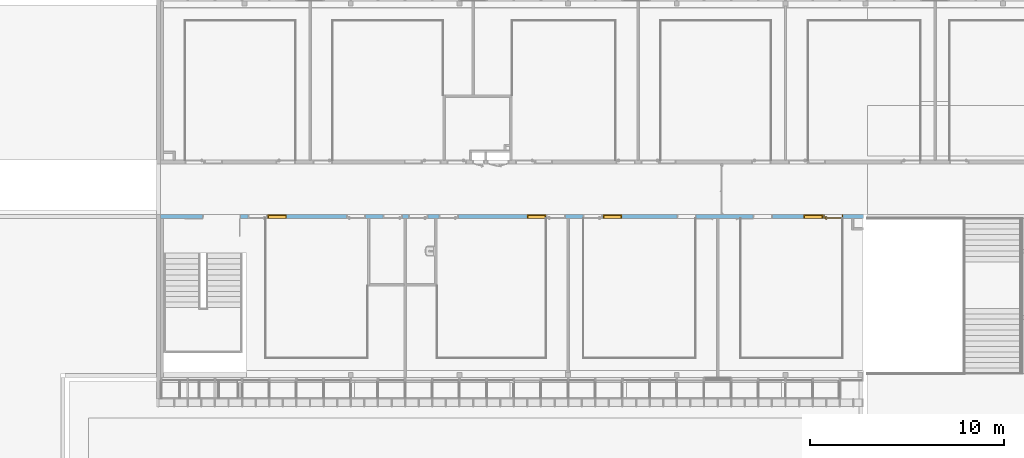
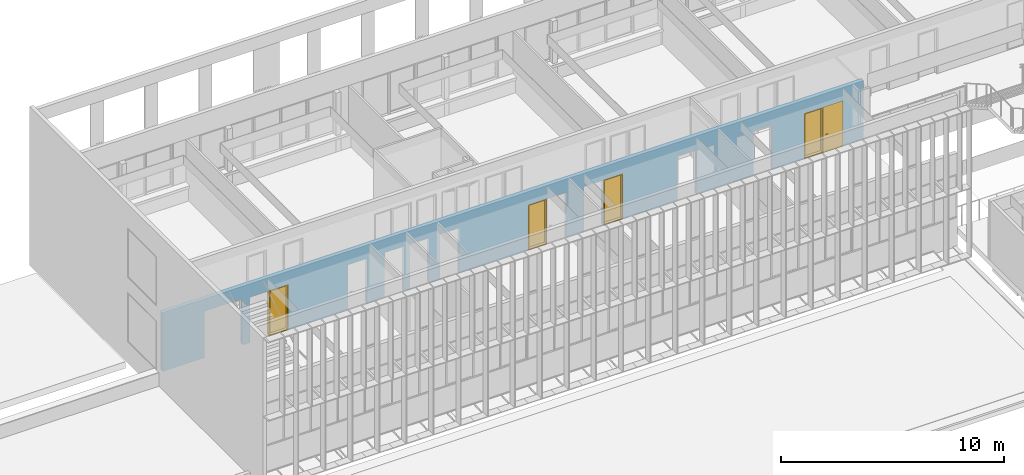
# One storey, part 45 of 106: 4 windows, 1 door, 15 openings, plus 1 element that does not belong to this part.
"""IFC2X3 building model written with IfcOpenShell, lengths in centimetres."""

import ifcopenshell
import ifcopenshell.guid

model = None  # the IFC model being written
_history = None  # IfcOwnerHistory: only IFC2X3 demands one
_inside = {}  # id of a spatial element -> (the spatial element, [elements in it])
_under = {}  # id of a project, library or spatial element -> (it, [spatial elements below it])
_declared = {}  # id of a project -> (the project, [libraries it declares])
_typed = {}  # id of a type object -> (the type object, [elements of that type])
_made_of = {}  # id of a material, layer set ... -> (it, [elements and type objects made of it])


def new_model(schema):
    """Start an empty IFC model of exactly this schema.

    Asked for "IFC4X3", IfcOpenShell would pick the latest addendum, in which some entities
    have other attributes; the version numbers below select the first issue.
    IFC2X3 requires an IfcOwnerHistory on every rooted entity: one is made here for all.
    """
    global model, _history
    if schema == "IFC4X3":
        model = ifcopenshell.file(schema_version=(4, 3, 0, 0))
    else:
        model = ifcopenshell.file(schema=schema)
    _inside.clear()
    _under.clear()
    _declared.clear()
    _typed.clear()
    _made_of.clear()
    _history = None
    if model.schema == "IFC2X3":
        org = make("IfcOrganization", Name="unknown")
        user = make(
            "IfcPersonAndOrganization",
            ThePerson=make("IfcPerson", FamilyName="unknown"),
            TheOrganization=org,
        )
        app = make(
            "IfcApplication",
            ApplicationDeveloper=org,
            Version="unknown",
            ApplicationFullName="unknown",
            ApplicationIdentifier="unknown",
        )
        _history = make(
            "IfcOwnerHistory",
            OwningUser=user,
            OwningApplication=app,
            ChangeAction="ADDED",
            CreationDate=0,
        )
    return model


def make(cls, **values):
    """One entity of the class cls with the attributes given. An attribute that is None is left unset."""
    return model.create_entity(
        cls, **{name: value for name, value in values.items() if value is not None}
    )


def entity(cls, *values):
    """Any entity or typed value of the class cls, its attributes in the order of the schema. None: left unset."""
    e = model.create_entity(cls)
    for i, value in enumerate(values):
        if value is not None:
            e[i] = value
    return e


def rooted(cls, **values):
    """An entity with a GlobalId (a new one), such as an element, a storey or a relation."""
    return make(cls, GlobalId=ifcopenshell.guid.new(), OwnerHistory=_history, **values)


def si_unit(unit_type, name, prefix=None):
    """IfcSIUnit, for example si_unit("LENGTHUNIT", "METRE", prefix="MILLI")."""
    return make("IfcSIUnit", UnitType=unit_type, Prefix=prefix, Name=name)


def converted_unit(unit_type, name, factor, base, dimensions=None, offset=None):
    """IfcConversionBasedUnit, such as the inch: factor (a typed value) times the base unit."""
    return make(
        "IfcConversionBasedUnit"
        if offset is None
        else "IfcConversionBasedUnitWithOffset",
        ConversionOffset=offset,
        Dimensions=None
        if dimensions is None
        else entity("IfcDimensionalExponents", *dimensions),
        UnitType=unit_type,
        Name=name,
        ConversionFactor=make(
            "IfcMeasureWithUnit", ValueComponent=factor, UnitComponent=base
        ),
    )


def derived_unit(unit_type, elements):
    """IfcDerivedUnit: a product of units, each with its exponent."""
    return make(
        "IfcDerivedUnit",
        Elements=[
            make("IfcDerivedUnitElement", Unit=unit, Exponent=power)
            for unit, power in elements
        ],
        UnitType=unit_type,
    )


def assignment(units):
    """IfcUnitAssignment: the units of a project."""
    return None if units is None else make("IfcUnitAssignment", Units=units)


def point(xyz):
    """IfcCartesianPoint."""
    return None if xyz is None else make("IfcCartesianPoint", Coordinates=xyz)


def direction(xyz):
    """IfcDirection."""
    return None if xyz is None else make("IfcDirection", DirectionRatios=xyz)


def frame(location, z_axis=None, x_axis=None):
    """IfcAxis2Placement3D, a coordinate frame: its origin and axes. An axis left out is left unset."""
    return make(
        "IfcAxis2Placement3D",
        Location=point(location),
        Axis=direction(z_axis),
        RefDirection=direction(x_axis),
    )


def frame_2d(location, x_axis=None):
    """IfcAxis2Placement2D, a coordinate frame in the plane: its origin and x axis."""
    return make(
        "IfcAxis2Placement2D", Location=point(location), RefDirection=direction(x_axis)
    )


def origin():
    """The frame at (0, 0, 0) with its axes left unset."""
    return frame((0.0, 0.0, 0.0))


def place(relative_to, where):
    """IfcLocalPlacement: puts the frame where relative to a parent placement (None: the world)."""
    return make(
        "IfcLocalPlacement", PlacementRelTo=relative_to, RelativePlacement=where
    )


def context(
    kind, dimensions, precision=None, world=None, true_north=None, identifier=None
):
    """IfcGeometricRepresentationContext, for example the 3D "Model" context."""
    return make(
        "IfcGeometricRepresentationContext",
        ContextIdentifier=identifier,
        ContextType=kind,
        CoordinateSpaceDimension=dimensions,
        Precision=precision,
        WorldCoordinateSystem=world,
        TrueNorth=true_north,
    )


def subcontext(parent, identifier, kind, view, scale=None):
    """IfcGeometricRepresentationSubContext, for example "Body" below "Model"."""
    return make(
        "IfcGeometricRepresentationSubContext",
        ContextIdentifier=identifier,
        ContextType=kind,
        ParentContext=parent,
        TargetScale=scale,
        TargetView=view,
    )


def project(units=None, contexts=None):
    """IfcProject with its units and contexts."""
    return rooted(
        "IfcProject",
        Name="project",
        RepresentationContexts=contexts,
        UnitsInContext=assignment(units),
    )


def spatial(cls, under=None, at=None, **own):
    """A site, building, storey or space (cls), placed at a placement, below another one or the project."""
    s = rooted(cls, ObjectPlacement=at, **own)
    if under is not None:
        _under.setdefault(under.id(), (under, []))[1].append(s)
    return s


def polyline(points):
    """IfcPolyline through the points."""
    return make("IfcPolyline", Points=[point(p) for p in points])


def profile(cls, at=None, kind="AREA", **sizes):
    """A parametric profile (cls). Its sizes go by their IFC names, for example OverallWidth=200.0."""
    return make(cls, ProfileType=kind, Position=at, **sizes)


def rectangle(**sizes):
    """IfcRectangleProfileDef."""
    return profile("IfcRectangleProfileDef", **sizes)


def extrude(swept, where, along, depth):
    """IfcExtrudedAreaSolid: the profile swept, set in the frame where, extruded along a direction by depth."""
    return make(
        "IfcExtrudedAreaSolid",
        SweptArea=swept,
        Position=where,
        ExtrudedDirection=direction(along),
        Depth=depth,
    )


def clip(a, b, op="DIFFERENCE"):
    """IfcBooleanClippingResult: the solid a cut by the half space b."""
    return make(
        "IfcBooleanClippingResult", Operator=op, FirstOperand=a, SecondOperand=b
    )


def bounded_halfspace(plane, agree, where, boundary):
    """IfcPolygonalBoundedHalfSpace: a half space limited to a polygon's prism."""
    return make(
        "IfcPolygonalBoundedHalfSpace",
        BaseSurface=make("IfcPlane", Position=plane),
        AgreementFlag=agree,
        Position=where,
        PolygonalBoundary=boundary,
    )


def faces_of(points, faces, orient=None, outer=None):
    """IfcFace entities. A face is a list of loops; a loop is a list of indices into points, from 0.

    orient and outer hold one flag for each loop. By default every Orientation is true, the
    first loop of a face is its IfcFaceOuterBound and the others are IfcFaceBound.
    """
    made = []
    for i, loops in enumerate(faces):
        bounds = []
        for j, loop in enumerate(loops):
            is_outer = j == 0 if outer is None else outer[i][j]
            bounds.append(
                make(
                    "IfcFaceOuterBound" if is_outer else "IfcFaceBound",
                    Bound=make("IfcPolyLoop", Polygon=[points[k] for k in loop]),
                    Orientation=True if orient is None else orient[i][j],
                )
            )
        made.append(make("IfcFace", Bounds=bounds))
    return made


def faceted_brep(points, faces, orient=None, outer=None, voids=None):
    """IfcFacetedBrep: a solid bounded by flat faces; with voids (closed shells), ...WithVoids."""
    shared = [point(p) for p in points]
    hull = make("IfcClosedShell", CfsFaces=faces_of(shared, faces, orient, outer))
    if voids is None:
        return make("IfcFacetedBrep", Outer=hull)
    return make(
        "IfcFacetedBrepWithVoids",
        Outer=hull,
        Voids=[
            make(cls, CfsFaces=faces_of(shared, fs, o, b)) for cls, fs, o, b in voids
        ],
    )


def shape(context_of_items, identifier, shape_type, items):
    """IfcShapeRepresentation: the items that make up one representation, for example the "Body"."""
    return make(
        "IfcShapeRepresentation",
        ContextOfItems=context_of_items,
        RepresentationIdentifier=identifier,
        RepresentationType=shape_type,
        Items=items,
    )


def source(mapping_origin, context_of_items, identifier, shape_type, items):
    """IfcRepresentationMap: a shape defined once, which mapped items show again and again."""
    return make(
        "IfcRepresentationMap",
        MappingOrigin=mapping_origin,
        MappedRepresentation=shape(context_of_items, identifier, shape_type, items),
    )


def transform(
    local_origin,
    x_axis=None,
    y_axis=None,
    z_axis=None,
    scale=None,
    scale2=None,
    scale3=None,
    uniform=True,
):
    """IfcCartesianTransformationOperator3D, or its non-uniform kind. x_axis, y_axis, z_axis: its Axis1, 2, 3."""
    if uniform:
        return make(
            "IfcCartesianTransformationOperator3D",
            Axis1=direction(x_axis),
            Axis2=direction(y_axis),
            LocalOrigin=point(local_origin),
            Scale=scale,
            Axis3=direction(z_axis),
        )
    return make(
        "IfcCartesianTransformationOperator3DnonUniform",
        Axis1=direction(x_axis),
        Axis2=direction(y_axis),
        LocalOrigin=point(local_origin),
        Scale=scale,
        Axis3=direction(z_axis),
        Scale2=scale2,
        Scale3=scale3,
    )


def mapped(mapping_source, mapping_target):
    """IfcMappedItem: shows the shape of a source again, moved by a transform."""
    return make(
        "IfcMappedItem", MappingSource=mapping_source, MappingTarget=mapping_target
    )


def material(Name=None, Category=None):
    """IfcMaterial."""
    return make("IfcMaterial", Name=Name, Category=Category)


def material_list(materials):
    """IfcMaterialList."""
    return make("IfcMaterialList", Materials=materials)


def layer(
    of_material, thickness, ventilated=None, Name=None, Category=None, Priority=None
):
    """IfcMaterialLayer: one layer of a wall or slab, of a material (None: an air gap)."""
    return make(
        "IfcMaterialLayer",
        Material=of_material,
        LayerThickness=thickness,
        IsVentilated=ventilated,
        Name=Name,
        Category=Category,
        Priority=Priority,
    )


def layer_set(layers, Name=None):
    """IfcMaterialLayerSet."""
    return make("IfcMaterialLayerSet", MaterialLayers=layers, LayerSetName=Name)


def layer_usage(for_layer_set, set_direction, sense, offset, extent=None):
    """IfcMaterialLayerSetUsage: how a layer set lies in its element."""
    return make(
        "IfcMaterialLayerSetUsage",
        ForLayerSet=for_layer_set,
        LayerSetDirection=set_direction,
        DirectionSense=sense,
        OffsetFromReferenceLine=offset,
        ReferenceExtent=extent,
    )


def made_of(thing, what):
    """Note that an element or type object is made of a material, layer set ...; save() writes the relation."""
    if what is not None:
        _made_of.setdefault(what.id(), (what, []))[1].append(thing)
    return thing


def type_object(cls, material=None, **own):
    """A type object (cls), such as IfcWallType, which elements share."""
    return made_of(rooted(cls, **own), material)


def type_shapes(of_type, sources):
    """Give a type object the sources (RepresentationMaps) that its elements show as mapped items."""
    of_type.RepresentationMaps = sources


def element(
    cls,
    number,
    at=None,
    inside=None,
    cuts=None,
    type_object=None,
    material=None,
    context=None,
    identifier="Body",
    shape_type=None,
    held_by="IfcProductDefinitionShape",
    body=None,
    shapes=None,
    **own,
):
    """One element of the class cls, such as IfcWall. Its Tag is "e" and its number.

    at: its placement. inside: the storey or other place that contains it. cuts: it is an
    opening in that element (IfcRelVoidsElement). A single representation is given by context,
    identifier, shape_type and body (its items); several are given by shapes. held_by: the class
    of the entity that holds the representations. save() writes the other relations.
    """
    e = rooted(cls, Tag="e%d" % number, ObjectPlacement=at, **own)
    if body is not None:
        shapes = [shape(context, identifier, shape_type, body)]
    if shapes is not None:
        e.Representation = make(held_by, Representations=shapes)
    if inside is not None:
        _inside.setdefault(inside.id(), (inside, []))[1].append(e)
    if cuts is not None:
        rooted(
            "IfcRelVoidsElement", RelatingBuildingElement=cuts, RelatedOpeningElement=e
        )
    if type_object is not None:
        _typed.setdefault(type_object.id(), (type_object, []))[1].append(e)
    return made_of(e, material)


def fill(opening, filler):
    """IfcRelFillsElement: the door or window that sits in an opening."""
    return rooted(
        "IfcRelFillsElement",
        RelatingOpeningElement=opening,
        RelatedBuildingElement=filler,
    )


def aggregate(whole, parts):
    """IfcRelAggregates: a whole, such as a stair, and the parts it consists of."""
    return rooted("IfcRelAggregates", RelatingObject=whole, RelatedObjects=parts)


def save(model, path):
    """Write the relations noted so far, then the file.

    IfcRelAggregates (storeys below a building ...), IfcRelContainedInSpatialStructure (elements
    in a storey), IfcRelDefinesByType, IfcRelAssociatesMaterial and IfcRelDeclares: one each for
    every whole, place, type object, material and project.
    """
    for whole, parts in _under.values():
        aggregate(whole, parts)
    for where, things in _inside.values():
        rooted(
            "IfcRelContainedInSpatialStructure",
            RelatedElements=things,
            RelatingStructure=where,
        )
    for kind, things in _typed.values():
        rooted("IfcRelDefinesByType", RelatedObjects=things, RelatingType=kind)
    for what, things in _made_of.values():
        rooted("IfcRelAssociatesMaterial", RelatedObjects=things, RelatingMaterial=what)
    for by, libraries in _declared.values():
        rooted("IfcRelDeclares", RelatingContext=by, RelatedDefinitions=libraries)
    model.write(path)


model = new_model("IFC2X3")

# Units and contexts
model_context = context("Model", 3, precision=0.001, world=origin(), true_north=direction((6.12303176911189e-17, 1.0)))
body_context = subcontext(model_context, "Body", "Model", "MODEL_VIEW")
ifc_project = project(units=[si_unit("LENGTHUNIT", "METRE", prefix="CENTI"), si_unit("AREAUNIT", "SQUARE_METRE"), si_unit("VOLUMEUNIT", "CUBIC_METRE"), converted_unit("PLANEANGLEUNIT", "DEGREE", entity("IfcRatioMeasure", 0.0174532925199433), si_unit("PLANEANGLEUNIT", "RADIAN"), dimensions=[0, 0, 0, 0, 0, 0, 0]), si_unit("MASSUNIT", "GRAM", prefix="KILO"), derived_unit("MASSDENSITYUNIT", [(si_unit("MASSUNIT", "GRAM", prefix="KILO"), 1), (si_unit("LENGTHUNIT", "METRE"), -3)]), si_unit("TIMEUNIT", "SECOND"), si_unit("FREQUENCYUNIT", "HERTZ"), si_unit("THERMODYNAMICTEMPERATUREUNIT", "DEGREE_CELSIUS"), derived_unit("THERMALTRANSMITTANCEUNIT", [(si_unit("MASSUNIT", "GRAM", prefix="KILO"), 1), (si_unit("THERMODYNAMICTEMPERATUREUNIT", "KELVIN"), -1), (si_unit("TIMEUNIT", "SECOND"), -3)]), derived_unit("VOLUMETRICFLOWRATEUNIT", [(si_unit("LENGTHUNIT", "METRE"), 3), (si_unit("TIMEUNIT", "SECOND"), -1)]), si_unit("ELECTRICCURRENTUNIT", "AMPERE"), si_unit("ELECTRICVOLTAGEUNIT", "VOLT"), si_unit("POWERUNIT", "WATT"), si_unit("FORCEUNIT", "NEWTON", prefix="KILO"), si_unit("ILLUMINANCEUNIT", "LUX"), si_unit("LUMINOUSFLUXUNIT", "LUMEN"), si_unit("LUMINOUSINTENSITYUNIT", "CANDELA"), derived_unit("USERDEFINED", [(si_unit("MASSUNIT", "GRAM", prefix="KILO"), -1), (si_unit("LENGTHUNIT", "METRE"), -2), (si_unit("TIMEUNIT", "SECOND"), 3), (si_unit("LUMINOUSFLUXUNIT", "LUMEN"), 1)]), derived_unit("LINEARVELOCITYUNIT", [(si_unit("LENGTHUNIT", "METRE"), 1), (si_unit("TIMEUNIT", "SECOND"), -1)]), si_unit("PRESSUREUNIT", "PASCAL"), derived_unit("USERDEFINED", [(si_unit("LENGTHUNIT", "METRE"), -2), (si_unit("MASSUNIT", "GRAM", prefix="KILO"), 1), (si_unit("TIMEUNIT", "SECOND"), -2)])], contexts=[model_context])

# Site, building, storey
site_placement = place(None, frame((-2781.94577612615, 7442.24238424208, 0.0)))
site = spatial("IfcSite", under=ifc_project, at=site_placement, Name="Default", CompositionType="ELEMENT")
building_placement = place(site_placement, origin())
building = spatial("IfcBuilding", under=site, at=building_placement, CompositionType="ELEMENT")
storey_placement = place(building_placement, frame((0.0, 0.0, 422.0)))
storey = spatial("IfcBuildingStorey", under=building, at=storey_placement, Name="Toiture - Cuisine", CompositionType="ELEMENT", Elevation=421.999999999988)

# Wall, openings, door, windows
ifc_material_1 = material(Name="01 - Maçonnerie")
ifc_layer = layer(ifc_material_1, 20.0)
ifc_layer_set = layer_set([ifc_layer], Name="Mur de base:04 - Structure - béton - 20cm")
ifc_layer_usage = layer_usage(ifc_layer_set, "AXIS2", "NEGATIVE", 10.0)
wall_type = type_object("IfcWallType", Name="Mur de base:04 - Structure - béton - 20cm", PredefinedType="STANDARD", material=ifc_layer_set)
wall_placement = place(building_placement, frame((-4787.99987760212, -1100.0, 422.0), z_axis=(0.0, 0.0, 1.0), x_axis=(-1.0, 0.0, 0.0)))
wall = element("IfcWallStandardCase", 1, at=wall_placement, inside=storey, type_object=wall_type, material=ifc_layer_usage, Name="Mur de base:04 - Structure - béton - 20cm", ObjectType="Mur de base:04 - Structure - béton - 20cm", context=body_context, shape_type="Clipping", body=[
    clip(extrude(rectangle(XDim=3621.50000006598, YDim=20.0000000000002, at=frame_2d((1810.75000003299, 5.32907051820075e-14), x_axis=(-1.0, 0.0))), origin(), (0.0, 0.0, 1.0), 321.0), bounded_halfspace(frame((4.0, -10.0, 321.0), z_axis=(0.0, 0.0, -1.0), x_axis=(0.0, -1.0, 0.0)), True, frame((4.0, -10.0, 321.0)), polyline([(0.0, 0.0), (720.0, 0.0), (730.0, 0.0), (3617.50000006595, 0.0), (3617.50000006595, 20.0), (3602.20000006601, 20.0), (3077.50016406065, 20.0), (3075.50016406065, 20.0), (2550.5, 20.0), (2540.5, 20.0), (2362.50000003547, 20.0), (2352.50000003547, 20.0), (2203.5, 20.0), (2193.5, 20.0), (1632.5, 20.0), (1630.5, 20.0), (1522.50016406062, 20.0), (1512.50016406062, 20.0), (1440.5, 20.0), (1438.5, 20.0), (862.500000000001, 20.0), (860.5, 20.0), (750.500000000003, 20.0), (740.500000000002, 20.0), (630.500000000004, 20.0), (628.500000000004, 20.0), (104.500000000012, 20.0), (102.500000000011, 20.0), (56.0, 20.0), (46.0, 20.0), (0.0, 20.0), (0.0, 0.0)]))),
])
opening_1_placement = place(wall_placement, frame((3071.50016406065, -10.0, 0.0)))
element("IfcOpeningElement", 2, at=opening_1_placement, cuts=wall, Name="Int. Simple:PV (0.93m x 2.50m):1", ObjectType="Opening", context=body_context, shape_type="SweptSolid", body=[
    extrude(rectangle(XDim=248.500000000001, YDim=99.9999999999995, at=frame_2d((124.250000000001, 49.9999999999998), x_axis=(1.0, 0.0))), frame((0.0, 0.0, 0.0), z_axis=(0.0, 1.0, 0.0), x_axis=(0.0, 0.0, 1.0)), (0.0, 0.0, 1.0), 20.0),
])
opening_2_placement = place(wall_placement, frame((1534.5, -10.0, 0.0)))
element("IfcOpeningElement", 3, at=opening_2_placement, cuts=wall, Name="Int. Simple:PV (0.93m x 2.50m):1", ObjectType="Opening", context=body_context, shape_type="SweptSolid", body=[
    extrude(rectangle(XDim=248.500000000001, YDim=99.9999999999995, at=frame_2d((124.250000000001, 50.0), x_axis=(1.0, 0.0))), frame((0.0, 0.0, 0.0), z_axis=(0.0, 1.0, 0.0), x_axis=(0.0, 0.0, 1.0)), (0.0, 0.0, 1.0), 20.0),
])
opening_3_placement = place(wall_placement, frame((861.500000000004, -10.0, 0.0)))
element("IfcOpeningElement", 4, at=opening_3_placement, cuts=wall, Name="Int. Simple:PV (0.93m x 2.50m):1", ObjectType="Opening", context=body_context, shape_type="SweptSolid", body=[
    extrude(rectangle(XDim=248.500000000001, YDim=99.9999999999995, at=frame_2d((124.250000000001, 50.0), x_axis=(1.0, 0.0))), frame((0.0, 0.0, 0.0), z_axis=(0.0, 1.0, 0.0), x_axis=(0.0, 0.0, 1.0)), (0.0, 0.0, 1.0), 20.0),
])
opening_4_placement = place(wall_placement, frame((469.500000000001, -10.0, 0.0)))
element("IfcOpeningElement", 5, at=opening_4_placement, cuts=wall, Name="Int. Simple:PV (0.93m x 2.50m):1", ObjectType="Opening", context=body_context, shape_type="SweptSolid", body=[
    extrude(rectangle(XDim=248.500000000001, YDim=99.9999999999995, at=frame_2d((124.250000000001, 49.9999999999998), x_axis=(1.0, 0.0))), frame((0.0, 0.0, 0.0), z_axis=(0.0, 1.0, 0.0), x_axis=(0.0, 0.0, 1.0)), (0.0, 0.0, 1.0), 20.0),
])
opening_5_placement = place(wall_placement, frame((2971.50016406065, -10.0, 0.0)))
opening_5 = element("IfcOpeningElement", 6, at=opening_5_placement, cuts=wall, Name="châssis intérieur vitré:châssis intérieur vitré (h=270) R+1:1", ObjectType="Opening", context=body_context, shape_type="SweptSolid", body=[
    extrude(rectangle(XDim=250.0, YDim=99.9999999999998, at=frame_2d((125.0, 49.9999999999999), x_axis=(1.0, 0.0))), frame((0.0, 0.0, 0.0), z_axis=(0.0, 1.0, 0.0), x_axis=(0.0, 0.0, 1.0)), (0.0, 0.0, 1.0), 20.0),
])
opening_6_placement = place(wall_placement, frame((1634.50000000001, -10.0, 0.0)))
opening_6 = element("IfcOpeningElement", 7, at=opening_6_placement, cuts=wall, Name="châssis intérieur vitré:châssis intérieur vitré (h=270) R+1:1", ObjectType="Opening", context=body_context, shape_type="SweptSolid", body=[
    extrude(rectangle(XDim=250.0, YDim=99.9999999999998, at=frame_2d((125.0, 49.9999999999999), x_axis=(1.0, 0.0))), frame((0.0, 0.0, 0.0), z_axis=(0.0, 1.0, 0.0), x_axis=(0.0, 0.0, 1.0)), (0.0, 0.0, 1.0), 20.0),
])
opening_7_placement = place(wall_placement, frame((1243.0, -10.0, 0.0)))
opening_7 = element("IfcOpeningElement", 8, at=opening_7_placement, cuts=wall, Name="châssis intérieur vitré:châssis intérieur vitré (h=270) R+1:1", ObjectType="Opening", context=body_context, shape_type="SweptSolid", body=[
    extrude(rectangle(XDim=250.0, YDim=99.9999999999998, at=frame_2d((125.0, 49.9999999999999), x_axis=(1.0, 0.0))), frame((0.0, 0.0, 0.0), z_axis=(0.0, 1.0, 0.0), x_axis=(0.0, 0.0, 1.0)), (0.0, 0.0, 1.0), 20.0),
])
opening_8_placement = place(wall_placement, frame((208.0, -10.0, 0.0)))
opening_8 = element("IfcOpeningElement", 9, at=opening_8_placement, cuts=wall, Name="châssis intérieur vitré:châssis intérieur vitré (h=270) R+1:1", ObjectType="Opening", context=body_context, shape_type="SweptSolid", body=[
    extrude(rectangle(XDim=250.0, YDim=99.9999999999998, at=frame_2d((125.0, 49.9999999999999), x_axis=(1.0, 0.0))), frame((0.0, 0.0, 0.0), z_axis=(0.0, 1.0, 0.0), x_axis=(0.0, 0.0, 1.0)), (0.0, 0.0, 1.0), 20.0),
])
opening_9_placement = place(wall_placement, frame((2564.5, -10.0, 0.0)))
element("IfcOpeningElement", 10, at=opening_9_placement, cuts=wall, Name="Int. Simple:PV (0.93m x 2.50m):1", ObjectType="Opening", context=body_context, shape_type="SweptSolid", body=[
    extrude(rectangle(XDim=248.500000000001, YDim=99.9999999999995, at=frame_2d((124.250000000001, 50.0), x_axis=(1.0, 0.0))), frame((0.0, 0.0, 0.0), z_axis=(0.0, 1.0, 0.0), x_axis=(0.0, 0.0, 1.0)), (0.0, 0.0, 1.0), 20.0),
])
opening_10_placement = place(wall_placement, frame((2374.5, -10.0, 0.0)))
element("IfcOpeningElement", 11, at=opening_10_placement, cuts=wall, Name="Int. Simple:PP simple (0.93m x 2.50m):1", ObjectType="Opening", context=body_context, shape_type="SweptSolid", body=[
    extrude(rectangle(XDim=248.500000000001, YDim=99.9999999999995, at=frame_2d((124.250000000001, 49.9999999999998), x_axis=(1.0, 0.0))), frame((0.0, 0.0, 0.0), z_axis=(0.0, 1.0, 0.0), x_axis=(0.0, 0.0, 1.0)), (0.0, 0.0, 1.0), 20.0),
])
opening_11_placement = place(wall_placement, frame((2244.5, -10.0, 0.0)))
element("IfcOpeningElement", 12, at=opening_11_placement, cuts=wall, Name="Int. Simple:PP simple (0.93m x 2.50m):1", ObjectType="Opening", context=body_context, shape_type="SweptSolid", body=[
    extrude(rectangle(XDim=248.500000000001, YDim=99.9999999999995, at=frame_2d((124.250000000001, 49.9999999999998), x_axis=(1.0, 0.0))), frame((0.0, 0.0, 0.0), z_axis=(0.0, 1.0, 0.0), x_axis=(0.0, 0.0, 1.0)), (0.0, 0.0, 1.0), 20.0),
])
opening_12_placement = place(wall_placement, frame((2087.5, -10.0, 0.0)))
element("IfcOpeningElement", 13, at=opening_12_placement, cuts=wall, Name="Int. Simple:PV (0.93m x 2.50m):1", ObjectType="Opening", context=body_context, shape_type="SweptSolid", body=[
    extrude(rectangle(XDim=248.500000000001, YDim=99.9999999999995, at=frame_2d((124.250000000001, 49.9999999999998), x_axis=(1.0, 0.0))), frame((0.0, 0.0, 0.0), z_axis=(0.0, 1.0, 0.0), x_axis=(0.0, 0.0, 1.0)), (0.0, 0.0, 1.0), 20.0),
])
opening_13_placement = place(wall_placement, frame((1344.5, -10.0, 0.0)))
element("IfcOpeningElement", 14, at=opening_13_placement, cuts=wall, Name="Int. Simple:PV (0.93m x 2.50m):1", ObjectType="Opening", context=body_context, shape_type="SweptSolid", body=[
    extrude(rectangle(XDim=248.500000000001, YDim=99.9999999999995, at=frame_2d((124.250000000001, 49.9999999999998), x_axis=(1.0, 0.0))), frame((0.0, 0.0, 0.0), z_axis=(0.0, 1.0, 0.0), x_axis=(0.0, 0.0, 1.0)), (0.0, 0.0, 1.0), 20.0),
])
opening_14_placement = place(wall_placement, frame((106.500000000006, -10.0, 0.0)))
opening_14 = element("IfcOpeningElement", 15, at=opening_14_placement, cuts=wall, Name="Int. Simple:PV (0.93m x 2.50m):1", ObjectType="Opening", context=body_context, shape_type="SweptSolid", body=[
    extrude(rectangle(XDim=248.500000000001, YDim=99.9999999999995, at=frame_2d((124.250000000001, 50.0), x_axis=(1.0, 0.0))), frame((0.0, 0.0, 0.0), z_axis=(0.0, 1.0, 0.0), x_axis=(0.0, 0.0, 1.0)), (0.0, 0.0, 1.0), 20.0),
])
opening_15_placement = place(wall_placement, frame((3208.50000000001, -10.0, 0.0)))
element("IfcOpeningElement", 16, at=opening_15_placement, cuts=wall, Name="Int. Double:PP (1.90m x 2.50m):1", ObjectType="Opening", context=body_context, shape_type="SweptSolid", body=[
    extrude(rectangle(XDim=253.500000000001, YDim=197.0, at=frame_2d((126.750000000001, 98.5), x_axis=(1.0, 0.0))), frame((0.0, 0.0, 0.0), z_axis=(0.0, 1.0, 0.0), x_axis=(0.0, 0.0, 1.0)), (0.0, 0.0, 1.0), 20.0),
])
ifc_material_2 = material(Name="Finition Peinture - Blanc satiné")
ifc_material_3 = material(Name="Bois - Panneau de porte")
ifc_material_4 = material(Name="Bois - Cadre de porte")
ifc_material_list_1 = material_list([ifc_material_2, ifc_material_3, ifc_material_4])
ifc_material_list_2 = material_list([ifc_material_2, ifc_material_3, ifc_material_4])
door_style = type_object("IfcDoorStyle", Name="PV (0.93m x 2.50m)", ConstructionType="NOTDEFINED", OperationType="SINGLE_SWING_LEFT", ParameterTakesPrecedence=False, Sizeable=False, material=ifc_material_list_2)
shared_shape_1 = source(origin(), body_context, "Body", "Brep", [
    faceted_brep([(10.5352761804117, -0.500000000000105, 86.6003983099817), (11.5000000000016, -0.500000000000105, 87.0), (11.5000000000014, -0.500000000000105, 108.0), (10.5352761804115, -0.500000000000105, 108.399601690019), (9.50000000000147, -0.500000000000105, 108.535898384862), (8.46472381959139, -0.500000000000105, 108.399601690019), (7.50000000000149, -0.500000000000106, 108.0), (7.50000000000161, -0.500000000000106, 87.0), (8.46472381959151, -0.500000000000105, 86.6003983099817), (9.50000000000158, -0.500000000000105, 86.464101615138), (10.5352761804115, 0.0, 108.399601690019), (11.5000000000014, 0.0, 108.0), (11.5000000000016, 0.0, 87.0), (10.5352761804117, 0.0, 86.6003983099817), (9.50000000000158, 0.0, 86.464101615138), (8.46472381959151, 0.0, 86.6003983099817), (7.50000000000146, 0.0, 87.0), (7.50000000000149, 0.0, 108.0), (8.46472381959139, 0.0, 108.399601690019), (9.50000000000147, 0.0, 108.535898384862)], [[[0, 1, 2, 3, 4, 5, 6, 7, 8, 9]], [[10, 11, 12, 13, 14, 15, 16, 17, 18, 19]], [[16, 15, 8, 7]], [[8, 15, 14, 9]], [[14, 13, 0, 9]], [[13, 12, 1, 0]], [[2, 1, 12, 11]], [[11, 10, 3, 2]], [[3, 10, 19, 4]], [[19, 18, 5, 4]], [[18, 17, 6, 5]], [[7, 6, 17, 16]]]),
    faceted_brep([(10.5352761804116, 4.0, 86.6003983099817), (11.5000000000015, 4.0, 87.0), (11.5000000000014, 4.0, 108.0), (10.5352761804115, 4.0, 108.399601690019), (9.50000000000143, 4.0, 108.535898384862), (8.46472381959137, 4.0, 108.399601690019), (7.50000000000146, 4.0, 108.0), (7.50000000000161, 4.0, 87.0), (8.46472381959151, 4.0, 86.6003983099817), (9.50000000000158, 4.0, 86.464101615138), (10.5352761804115, 4.49999999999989, 108.399601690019), (11.5000000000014, 4.49999999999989, 108.0), (11.5000000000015, 4.49999999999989, 87.0), (10.5352761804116, 4.49999999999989, 86.6003983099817), (9.50000000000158, 4.49999999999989, 86.464101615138), (8.46472381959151, 4.49999999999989, 86.6003983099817), (7.50000000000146, 4.49999999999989, 87.0), (7.50000000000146, 4.49999999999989, 108.0), (8.46472381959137, 4.49999999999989, 108.399601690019), (9.50000000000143, 4.49999999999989, 108.535898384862)], [[[0, 1, 2, 3, 4, 5, 6, 7, 8, 9]], [[10, 11, 12, 13, 14, 15, 16, 17, 18, 19]], [[11, 10, 3, 2]], [[3, 10, 19, 4]], [[19, 18, 5, 4]], [[18, 17, 6, 5]], [[7, 6, 17, 16]], [[16, 15, 8, 7]], [[8, 15, 14, 9]], [[14, 13, 0, 9]], [[13, 12, 1, 0]], [[2, 1, 12, 11]]]),
    faceted_brep([(9.29747013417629, -0.500000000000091, 100.778044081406), (9.70252986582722, -0.500000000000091, 100.778044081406), (10.1000000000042, -0.500000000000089, 100.699999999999), (10.1000000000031, -0.500000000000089, 99.3000000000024), (9.7025298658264, -0.500000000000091, 99.2219559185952), (9.29747013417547, -0.500000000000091, 99.221955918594), (8.8999999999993, -0.500000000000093, 99.2999999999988), (8.89999999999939, -0.500000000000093, 100.7), (8.89999999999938, -3.26509507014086, 100.7), (9.29747013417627, -3.10045754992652, 100.778044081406), (10.9023585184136, -4.70534593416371, 100.778044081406), (11.0701397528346, -4.30028620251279, 100.778044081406), (9.7025298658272, -2.93267631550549, 100.778044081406), (10.1000000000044, -2.76803879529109, 100.7), (10.1000000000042, -2.76803879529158, 99.3000000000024), (9.7025298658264, -2.93267631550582, 99.2219559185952), (11.0701397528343, -4.30028620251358, 99.2219559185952), (10.9023585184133, -4.70534593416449, 99.221955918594), (9.29747013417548, -3.10045754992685, 99.221955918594), (8.89999999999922, -3.26509507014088, 99.2999999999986), (10.7377209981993, -5.10281606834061, 100.7), (11.2347772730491, -3.90281606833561, 100.7), (11.2347772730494, -3.90281606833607, 99.3000000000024), (10.7377209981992, -5.10281606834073, 99.2999999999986), (19.5018640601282, -5.1028160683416, 99.2999999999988), (19.5018640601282, -4.70534593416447, 99.221955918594), (19.5018640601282, -4.30028620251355, 99.2219559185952), (19.5018640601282, -3.90281606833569, 99.3000000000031), (19.5018640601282, -3.90281606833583, 100.7), (19.5018640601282, -4.30028620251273, 100.778044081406), (19.5018640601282, -4.70534593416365, 100.778044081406), (19.5018640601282, -5.10281606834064, 100.699999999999), (14.7307697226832, -5.10281606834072, 100.7), (15.2860019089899, -4.5028160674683, 100.78786867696), (15.3683206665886, -3.9028160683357, 100.7), (15.3683206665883, -3.90281606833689, 99.3000000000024), (15.2860018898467, -4.50281607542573, 99.2121313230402), (14.7307700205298, -5.10281606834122, 99.2999999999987)], [[[0, 1, 2, 3, 4, 5, 6, 7]], [[8, 9, 0, 7]], [[9, 10, 11, 12, 1, 0]], [[12, 13, 2, 1]], [[3, 2, 13, 14]], [[14, 15, 4, 3]], [[15, 16, 17, 18, 5, 4]], [[18, 19, 6, 5]], [[7, 6, 19, 8]], [[20, 10, 9, 8]], [[11, 21, 13, 12]], [[14, 13, 21, 22]], [[22, 16, 15, 14]], [[17, 23, 19, 18]], [[8, 19, 23, 20]], [[24, 25, 26, 27, 28, 29, 30, 31]], [[32, 30, 33]], [[31, 30, 32]], [[10, 20, 32]], [[33, 34, 11]], [[21, 11, 34]], [[34, 29, 28]], [[30, 29, 33]], [[29, 34, 33]], [[10, 32, 33]], [[10, 33, 11]], [[22, 21, 34, 28, 27, 35]], [[35, 26, 36]], [[37, 36, 25]], [[22, 35, 16]], [[35, 27, 26]], [[24, 37, 25]], [[23, 17, 37]], [[37, 17, 36]], [[17, 16, 36]], [[16, 35, 36]], [[25, 36, 26]], [[20, 23, 37, 24, 31, 32]]]),
    faceted_brep([(9.29747013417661, 4.49999999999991, 100.778044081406), (8.89999999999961, 4.4999999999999, 100.7), (8.89999999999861, 4.4999999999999, 99.2999999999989), (9.29747013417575, 4.49999999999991, 99.221955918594), (9.70252986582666, 4.49999999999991, 99.2219559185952), (10.1000000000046, 4.49999999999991, 99.3000000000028), (10.1000000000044, 4.49999999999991, 100.7), (9.70252986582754, 4.49999999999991, 100.778044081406), (10.1000000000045, 6.7485204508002, 99.3000000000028), (10.1000000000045, 6.74852045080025, 100.7), (9.70252986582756, 6.91315797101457, 100.778044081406), (11.083890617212, 8.29451872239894, 100.778044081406), (10.916109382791, 8.69957845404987, 100.778044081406), (9.29747013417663, 7.0809392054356, 100.778044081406), (8.89999999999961, 7.24557672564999, 100.7), (8.89999999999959, 7.2455767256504, 99.2999999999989), (9.29747013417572, 7.08093920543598, 99.221955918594), (10.9161093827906, 8.69957845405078, 99.221955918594), (11.0838906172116, 8.29451872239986, 99.2219559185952), (9.70252986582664, 6.91315797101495, 99.2219559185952), (11.2485281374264, 7.89704858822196, 99.3000000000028), (11.2485281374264, 7.89704858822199, 100.7), (10.7514718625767, 9.09704858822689, 100.7), (10.7514718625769, 9.0970485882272, 99.2999999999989), (19.5045783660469, 7.89704858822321, 99.3000000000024), (19.5045783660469, 8.29451872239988, 99.2219559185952), (19.5045783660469, 8.6995784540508, 99.221955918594), (19.5045783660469, 9.09704858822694, 99.2999999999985), (19.5045783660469, 9.09704858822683, 100.7), (19.5045783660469, 8.69957845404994, 100.778044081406), (19.5045783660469, 8.29451872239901, 100.778044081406), (19.5045783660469, 7.89704858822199, 100.7), (15.3765520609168, 7.89704858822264, 99.3000000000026), (15.3765532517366, 7.89704858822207, 100.7), (15.294234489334, 8.49704858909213, 100.78786867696), (14.7445205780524, 9.09704858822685, 100.7), (14.7445204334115, 9.09704858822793, 99.2999999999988), (15.2942345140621, 8.49704858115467, 99.2121313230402)], [[[0, 1, 2, 3, 4, 5, 6, 7]], [[6, 5, 8, 9]], [[9, 10, 7, 6]], [[10, 11, 12, 13, 0, 7]], [[13, 14, 1, 0]], [[2, 1, 14, 15]], [[15, 16, 3, 2]], [[16, 17, 18, 19, 4, 3]], [[19, 8, 5, 4]], [[9, 8, 20, 21]], [[21, 11, 10, 9]], [[12, 22, 14, 13]], [[15, 14, 22, 23]], [[23, 17, 16, 15]], [[18, 20, 8, 19]], [[24, 25, 26, 27, 28, 29, 30, 31]], [[21, 20, 32, 24, 31, 33]], [[33, 30, 34]], [[35, 34, 29]], [[21, 33, 11]], [[33, 31, 30]], [[28, 35, 29]], [[22, 12, 35]], [[35, 12, 34]], [[12, 11, 34]], [[11, 33, 34]], [[29, 34, 30]], [[22, 35, 28, 27, 36, 23]], [[36, 26, 37]], [[27, 26, 36]], [[17, 23, 36]], [[37, 32, 18]], [[20, 18, 32]], [[32, 25, 24]], [[26, 25, 37]], [[25, 32, 37]], [[17, 36, 37]], [[17, 37, 18]]]),
    faceted_brep([(3.50000000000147, 4.0, 245.0), (96.5000000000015, 4.0, 245.0), (96.5000000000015, 4.0, 0.0), (3.50000000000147, 4.0, 0.0), (3.50000000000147, 0.0, 245.0), (3.50000000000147, 0.0, 0.0), (96.5000000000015, 0.0, 0.0), (96.5000000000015, 0.0, 245.0)], [[[0, 1, 2, 3]], [[4, 5, 6, 7]], [[1, 0, 4, 7]], [[2, 1, 7, 6]], [[3, 2, 6, 5]], [[0, 3, 5, 4]]]),
    faceted_brep([(0.0, 20.0, 0.0), (-1.50000000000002, 20.0, 0.0), (-1.50000000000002, 20.5000000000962, 0.0), (5.0, 20.5000000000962, 0.0), (5.0, 4.0, 0.0), (3.50000000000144, 4.0, 0.0), (3.50000000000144, -0.500000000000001, 0.0), (-1.50000000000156, -0.500000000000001, 0.0), (-1.50000000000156, 0.0, 0.0), (0.0, 0.0, 0.0), (0.0, 20.0, 248.500000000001), (100.0, 20.0, 248.500000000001), (100.0, 20.0, 0.0), (101.5, 20.0, 0.0), (101.5, 20.0, 250.0), (-1.50000000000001, 20.0, 250.0), (-1.50000000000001, 20.5000000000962, 250.0), (101.5, 20.5000000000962, 250.0), (101.5, 20.5000000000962, 0.0), (95.0, 20.5000000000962, 0.0), (95.0, 20.5000000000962, 243.5), (5.0, 20.5000000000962, 243.5), (5.0, 4.0, 243.5), (95.0, 4.0, 243.5), (95.0, 4.0, 0.0), (96.499999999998, 4.0, 0.0), (96.499999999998, 4.0, 245.0), (3.50000000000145, 4.0, 245.0), (3.50000000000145, -0.500000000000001, 245.0), (96.499999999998, -0.500000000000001, 245.0), (96.499999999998, -0.500000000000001, 0.0), (101.500000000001, -0.500000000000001, 0.0), (101.500000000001, -0.500000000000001, 250.0), (-1.50000000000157, -0.500000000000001, 250.0), (-1.50000000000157, 0.0, 250.0), (101.500000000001, 0.0, 250.0), (101.500000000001, 0.0, 0.0), (100.0, 0.0, 0.0), (100.0, 0.0, 248.500000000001), (0.0, 0.0, 248.500000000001)], [[[0, 1, 2, 3, 4, 5, 6, 7, 8, 9]], [[1, 0, 10, 11, 12, 13, 14, 15]], [[2, 1, 15, 16]], [[3, 2, 16, 17, 18, 19, 20, 21]], [[3, 21, 22, 4]], [[5, 4, 22, 23, 24, 25, 26, 27]], [[5, 27, 28, 6]], [[7, 6, 28, 29, 30, 31, 32, 33]], [[8, 7, 33, 34]], [[9, 8, 34, 35, 36, 37, 38, 39]], [[0, 9, 39, 10]], [[11, 38, 37, 12]], [[12, 37, 36, 31, 30, 25, 24, 19, 18, 13]], [[17, 14, 13, 18]], [[23, 20, 19, 24]], [[29, 26, 25, 30]], [[35, 32, 31, 36]], [[16, 15, 14, 17]], [[22, 21, 20, 23]], [[28, 27, 26, 29]], [[34, 33, 32, 35]], [[10, 39, 38, 11]]]),
])
type_shapes(door_style, [shared_shape_1])
door_placement = place(opening_14_placement, frame((100.0, 20.0, 0.0), z_axis=(0.0, 0.0, 1.0), x_axis=(-1.0, 0.0, 0.0)))
door = element("IfcDoor", 17, at=door_placement, inside=storey, type_object=door_style, material=ifc_material_list_1, Name="Int. Simple:PV (0.93m x 2.50m)", ObjectType="Int. Simple:PV (0.93m x 2.50m)", OverallHeight=248.500000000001, OverallWidth=99.9999999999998, context=body_context, shape_type="MappedRepresentation", body=[
    mapped(shared_shape_1, transform((0.0, 0.0, 0.0), scale=1.0)),
])
fill(opening_14, door)
ifc_material_5 = material(Name="Verre")
ifc_material_6 = material(Name="huisserie bois")
ifc_material_list_3 = material_list([ifc_material_5, ifc_material_6])
ifc_material_list_4 = material_list([ifc_material_5, ifc_material_6])
window_style_1 = type_object("IfcWindowStyle", Name="châssis intérieur vitré (h=270) R+1", ConstructionType="NOTDEFINED", OperationType="NOTDEFINED", ParameterTakesPrecedence=False, Sizeable=False, material=ifc_material_list_4)
shared_shape_2 = source(origin(), body_context, "Body", "Brep", [
    faceted_brep([(97.0, 5.0, 247.0), (97.0, 5.0, 3.0), (3.0, 5.0, 3.0), (3.0, 5.0, 247.0), (97.0, 2.0, 247.0), (97.0, 2.0, 3.0), (3.0, 2.0, 3.0), (3.0, 2.0, 247.0)], [[[0, 1, 2, 3]], [[1, 0, 4, 5]], [[2, 1, 5, 6]], [[3, 2, 6, 7]], [[4, 7, 6, 5]], [[0, 3, 7, 4]]]),
    faceted_brep([(97.0, 2.0, 247.0), (97.0, 0.0, 247.0), (97.0, 0.0, 3.0), (97.0, 2.0, 3.0), (95.0, 0.0, 5.0), (5.0, 0.0, 5.0), (5.0, 0.0, 245.0), (95.0, 0.0, 245.0), (3.0, 0.0, 247.0), (3.0, 0.0, 3.0), (3.0, 2.0, 3.0), (3.0, 2.0, 247.0), (95.0, 2.0, 245.0), (5.0, 2.0, 245.0), (5.0, 2.0, 5.0), (95.0, 2.0, 5.0)], [[[0, 1, 2, 3]], [[4, 5, 6, 7], [1, 8, 9, 2]], [[3, 2, 9, 10]], [[3, 10, 11, 0], [12, 13, 14, 15]], [[7, 12, 15, 4]], [[4, 15, 14, 5]], [[10, 9, 8, 11]], [[5, 14, 13, 6]], [[11, 8, 1, 0]], [[6, 13, 12, 7]]], outer=[[True], [False, True], [True], [True, False], [True], [True], [True], [True], [True], [True]]),
    faceted_brep([(95.0, 5.0, 245.0), (95.0, 20.0, 245.0), (95.0, 20.0, 5.0), (95.0, 5.0, 5.0), (100.0, 20.0, 0.0), (0.0, 20.0, 0.0), (0.0, 20.0, 250.0), (100.0, 20.0, 250.0), (5.0, 20.0, 245.0), (5.0, 20.0, 5.0), (5.0, 5.0, 5.0), (5.0, 5.0, 245.0), (97.0, 5.0, 247.0), (3.0, 5.0, 247.0), (3.0, 5.0, 3.0), (97.0, 5.0, 3.0), (97.0, 0.0, 247.0), (97.0, 0.0, 3.0), (3.0, 0.0, 3.0), (3.0, 0.0, 247.0), (100.0, 0.0, 250.0), (0.0, 0.0, 250.0), (0.0, 0.0, 0.0), (100.0, 0.0, 0.0)], [[[0, 1, 2, 3]], [[4, 5, 6, 7], [1, 8, 9, 2]], [[3, 2, 9, 10]], [[3, 10, 11, 0], [12, 13, 14, 15]], [[16, 12, 15, 17]], [[17, 15, 14, 18]], [[17, 18, 19, 16], [20, 21, 22, 23]], [[7, 20, 23, 4]], [[4, 23, 22, 5]], [[10, 9, 8, 11]], [[18, 14, 13, 19]], [[5, 22, 21, 6]], [[11, 8, 1, 0]], [[19, 13, 12, 16]], [[6, 21, 20, 7]]], outer=[[True], [True, False], [True], [False, True], [True], [True], [False, True], [True], [True], [True], [True], [True], [True], [True], [True]]),
])
type_shapes(window_style_1, [shared_shape_2])
window_1_placement = place(opening_5_placement, origin())
window_1 = element("IfcWindow", 18, at=window_1_placement, inside=storey, type_object=window_style_1, material=ifc_material_list_3, Name="châssis intérieur vitré:châssis intérieur vitré (h=270) R+1", ObjectType="châssis intérieur vitré:châssis intérieur vitré (h=270) R+1", OverallHeight=250.0, OverallWidth=99.9999999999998, context=body_context, shape_type="MappedRepresentation", body=[
    mapped(shared_shape_2, transform((0.0, 0.0, 0.0), scale=1.0)),
])
fill(opening_5, window_1)
ifc_material_list_5 = material_list([ifc_material_5, ifc_material_6])
window_2_placement = place(opening_6_placement, origin())
window_2 = element("IfcWindow", 19, at=window_2_placement, inside=storey, type_object=window_style_1, material=ifc_material_list_5, Name="châssis intérieur vitré:châssis intérieur vitré (h=270) R+1", ObjectType="châssis intérieur vitré:châssis intérieur vitré (h=270) R+1", OverallHeight=250.0, OverallWidth=99.9999999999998, context=body_context, shape_type="MappedRepresentation", body=[
    mapped(shared_shape_2, transform((0.0, 0.0, 0.0), scale=1.0)),
])
fill(opening_6, window_2)
ifc_material_list_6 = material_list([ifc_material_5, ifc_material_6])
window_3_placement = place(opening_8_placement, origin())
window_3 = element("IfcWindow", 20, at=window_3_placement, inside=storey, type_object=window_style_1, material=ifc_material_list_6, Name="châssis intérieur vitré:châssis intérieur vitré (h=270) R+1", ObjectType="châssis intérieur vitré:châssis intérieur vitré (h=270) R+1", OverallHeight=250.0, OverallWidth=99.9999999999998, context=body_context, shape_type="MappedRepresentation", body=[
    mapped(shared_shape_2, transform((0.0, 0.0, 0.0), scale=1.0)),
])
fill(opening_8, window_3)
ifc_material_list_7 = material_list([ifc_material_5, ifc_material_6])
ifc_material_list_8 = material_list([ifc_material_5, ifc_material_6])
window_style_2 = type_object("IfcWindowStyle", Name="châssis intérieur vitré (h=270) R+1", ConstructionType="NOTDEFINED", OperationType="NOTDEFINED", ParameterTakesPrecedence=False, Sizeable=False, material=ifc_material_list_8)
shared_shape_3 = source(origin(), body_context, "Body", "Brep", [
    faceted_brep([(3.0, 5.0, 247.0), (97.0, 5.0, 247.0), (97.0, 5.0, 3.0), (3.0, 5.0, 3.0), (3.0, 2.0, 3.0), (3.0, 2.0, 247.0), (97.0, 2.0, 3.0), (97.0, 2.0, 247.0)], [[[0, 1, 2, 3]], [[3, 4, 5, 0]], [[2, 6, 4, 3]], [[1, 7, 6, 2]], [[5, 4, 6, 7]], [[0, 5, 7, 1]]]),
    faceted_brep([(3.0, 2.0, 247.0), (3.0, 2.0, 3.0), (3.0, 0.0, 3.0), (3.0, 0.0, 247.0), (97.0, 0.0, 3.0), (97.0, 0.0, 247.0), (5.0, 0.0, 5.0), (5.0, 0.0, 245.0), (95.0, 0.0, 245.0), (95.0, 0.0, 5.0), (97.0, 2.0, 3.0), (97.0, 2.0, 247.0), (5.0, 2.0, 245.0), (5.0, 2.0, 5.0), (95.0, 2.0, 5.0), (95.0, 2.0, 245.0)], [[[0, 1, 2, 3]], [[3, 2, 4, 5], [6, 7, 8, 9]], [[1, 10, 4, 2]], [[1, 0, 11, 10], [12, 13, 14, 15]], [[7, 6, 13, 12]], [[6, 9, 14, 13]], [[10, 11, 5, 4]], [[9, 8, 15, 14]], [[11, 0, 3, 5]], [[8, 7, 12, 15]]]),
    faceted_brep([(5.0, 5.0, 245.0), (5.0, 5.0, 5.0), (5.0, 20.0, 5.0), (5.0, 20.0, 245.0), (95.0, 20.0, 5.0), (95.0, 20.0, 245.0), (0.0, 20.0, 0.0), (0.0, 20.0, 250.0), (100.0, 20.0, 250.0), (100.0, 20.0, 0.0), (95.0, 5.0, 5.0), (95.0, 5.0, 245.0), (3.0, 5.0, 247.0), (3.0, 5.0, 3.0), (97.0, 5.0, 3.0), (97.0, 5.0, 247.0), (3.0, 0.0, 247.0), (3.0, 0.0, 3.0), (97.0, 0.0, 3.0), (97.0, 0.0, 247.0), (0.0, 0.0, 250.0), (0.0, 0.0, 0.0), (100.0, 0.0, 0.0), (100.0, 0.0, 250.0)], [[[0, 1, 2, 3]], [[3, 2, 4, 5], [6, 7, 8, 9]], [[1, 10, 4, 2]], [[1, 0, 11, 10], [12, 13, 14, 15]], [[16, 17, 13, 12]], [[17, 18, 14, 13]], [[17, 16, 19, 18], [20, 21, 22, 23]], [[7, 6, 21, 20]], [[6, 9, 22, 21]], [[10, 11, 5, 4]], [[18, 19, 15, 14]], [[9, 8, 23, 22]], [[11, 0, 3, 5]], [[19, 16, 12, 15]], [[8, 7, 20, 23]]], outer=[[True], [False, True], [True], [False, True], [True], [True], [False, True], [True], [True], [True], [True], [True], [True], [True], [True]]),
])
type_shapes(window_style_2, [shared_shape_3])
window_4_placement = place(opening_7_placement, origin())
window_4 = element("IfcWindow", 21, at=window_4_placement, inside=storey, type_object=window_style_2, material=ifc_material_list_7, Name="châssis intérieur vitré:châssis intérieur vitré (h=270) R+1", ObjectType="châssis intérieur vitré:châssis intérieur vitré (h=270) R+1", OverallHeight=250.0, OverallWidth=99.9999999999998, context=body_context, shape_type="MappedRepresentation", body=[
    mapped(shared_shape_3, transform((0.0, 0.0, 0.0), scale=1.0)),
])
fill(opening_7, window_4)

save(model, "model.ifc")
